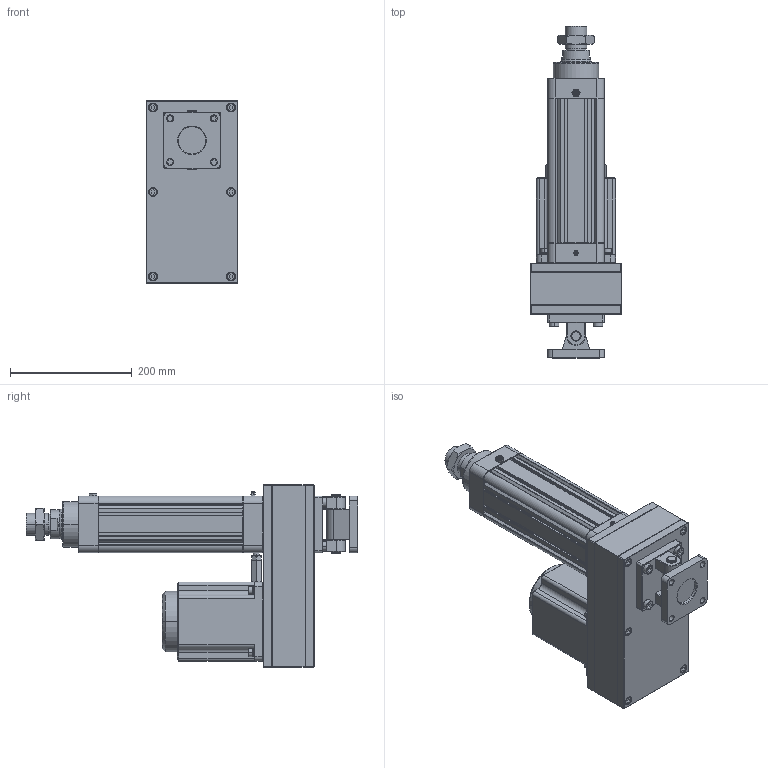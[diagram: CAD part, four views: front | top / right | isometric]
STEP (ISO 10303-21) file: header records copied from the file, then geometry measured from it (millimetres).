
FILE_DESCRIPTION((''),'2;1');
FILE_NAME('HE80-D-P_ASM','2020-05-14T',('ASUS20200'),(''),'CREO PARAMETRIC BY PTC INC, 2014190','CREO PARAMETRIC BY PTC INC, 2014190','');
FILE_SCHEMA(('CONFIG_CONTROL_DESIGN'));
Length unit declared in the file: millimetre
Products named in the file (30): HE80-D-P-001-X1; HE80-D-P-002-X1; HE80-D-P-003-X1; 30304J; YZ-M6X1; SLM-01; JDB506030; HE80-100-D-P-X1_ASM; HE80-P-010-X1-130N; 130ST-M10010; M10X25; HE80-P-009-X1-130N; HE80-P-013-X1-130N; TD-8; M8X35; M8X75; LM-M8-7-5; M10X1-25-40; LM-M10-30; LM-M10; HE80-D-P-005-X1; HE80-D-P-004-X1; HE80-D-P-008-X1; LGLM-M10-25; F-SE80CB; F-SE80CB-XD; F-SE80CB_ASM; F-SE80CA; M10X30; HE80-D-P_ASM
Assembly tree (53 placements, depth 3):
  HE80-D-P_ASM
    HE80-100-D-P-X1_ASM
      HE80-D-P-001-X1
      HE80-D-P-002-X1
      HE80-D-P-003-X1
      30304J  x2
      YZ-M6X1
      SLM-01
      JDB506030
    HE80-P-010-X1-130N
    130ST-M10010
    M10X25  x4
    HE80-P-009-X1-130N
    HE80-P-013-X1-130N
    TD-8  x4
    M8X35  x4
    M8X75  x6
    LM-M8-7-5  x4
    M10X1-25-40
    LM-M10-30
    LM-M10
    HE80-D-P-005-X1
    HE80-D-P-004-X1
    HE80-D-P-008-X1
    LGLM-M10-25  x4
    F-SE80CB_ASM
      F-SE80CB
      F-SE80CB-XD
    F-SE80CA
    M10X30  x4
Bounding box: 150 x 546 x 300 mm (x, y, z)
Volume: 5693711.3 mm3; surface area: 1035448.4 mm2
Topology: 51 solids, 85 shells, 2748 faces, 6318 edges, 3773 vertices
Faces by surface type: plane 1011, cone 858, cylinder 727, torus 122, sphere 26, bspline 4
Entity records: 63499 total; most frequent: CARTESIAN_POINT 12110, DIRECTION 11313, ORIENTED_EDGE 9958, EDGE_CURVE 5038, AXIS2_PLACEMENT_3D 4307, VERTEX_POINT 3008, VECTOR 2699, LINE 2699
